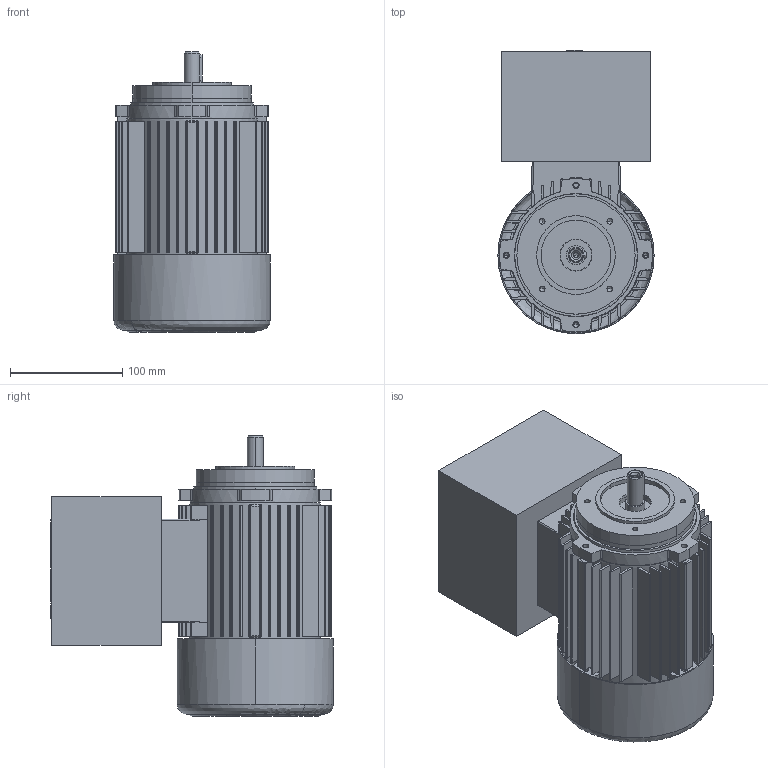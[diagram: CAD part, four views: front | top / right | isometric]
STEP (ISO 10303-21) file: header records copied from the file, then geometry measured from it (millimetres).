
FILE_DESCRIPTION (( 'STEP AP214' ), '1' );
FILE_NAME ('20.18390-C 5AT 71 B14_small Exd STANDK.STEP', '2018-05-08T07:32:05', ( '' ), ( '' ), 'SwSTEP 2.0', 'SolidWorks 2017', '' );
FILE_SCHEMA (( 'AUTOMOTIVE_DESIGN' ));
Length unit declared in the file: millimetre
Products named in the file (1): 20.18390-C 5AT 71 B14_small Exd STANDK
Bounding box: 139 x 251.5 x 249 mm (x, y, z)
Volume: 2902037 mm3; surface area: 418835.4 mm2
Topology: 4 solids, 4 shells, 782 faces, 1980 edges, 1265 vertices
Faces by surface type: plane 368, cylinder 294, bspline 70, cone 50
Entity records: 25681 total; most frequent: CARTESIAN_POINT 6588, DIRECTION 4050, ORIENTED_EDGE 3900, EDGE_CURVE 1950, AXIS2_PLACEMENT_3D 1489, VERTEX_POINT 1265, VECTOR 1072, LINE 1072
